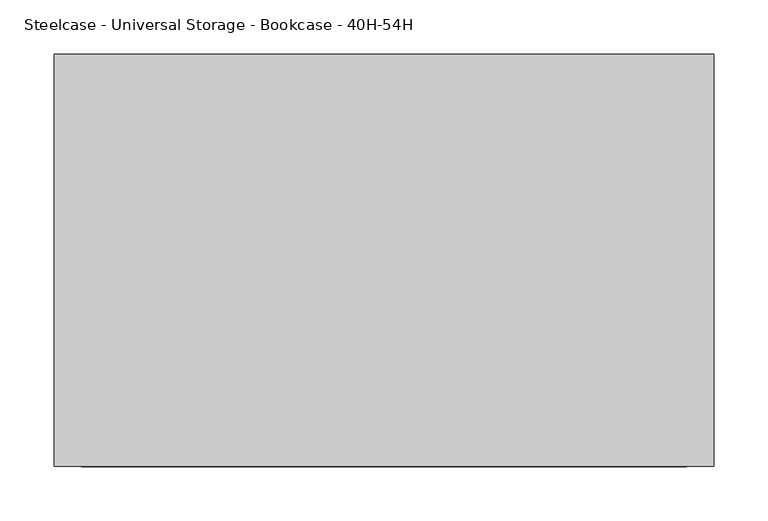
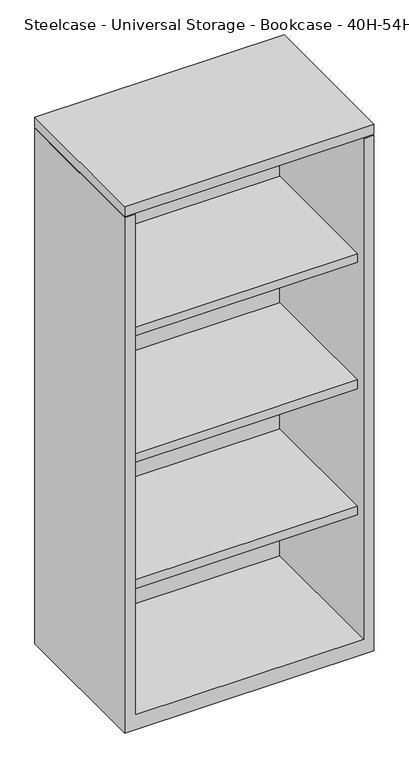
"""IFC4 building model written with IfcOpenShell, lengths in millimetres: furniture geometry, Steelcase - Universal Storage - Bookcase - 40H-54H : 53 1/2H x 24W."""

import ifcopenshell
import ifcopenshell.guid

model = None  # the IFC model being written
_history = None  # IfcOwnerHistory: only IFC2X3 demands one
_inside = {}  # id of a spatial element -> (the spatial element, [elements in it])
_under = {}  # id of a project, library or spatial element -> (it, [spatial elements below it])
_declared = {}  # id of a project -> (the project, [libraries it declares])
_typed = {}  # id of a type object -> (the type object, [elements of that type])
_made_of = {}  # id of a material, layer set ... -> (it, [elements and type objects made of it])


def new_model(schema):
    """Start an empty IFC model of exactly this schema.

    Asked for "IFC4X3", IfcOpenShell would pick the latest addendum, in which some entities
    have other attributes; the version numbers below select the first issue.
    IFC2X3 requires an IfcOwnerHistory on every rooted entity: one is made here for all.
    """
    global model, _history
    if schema == "IFC4X3":
        model = ifcopenshell.file(schema_version=(4, 3, 0, 0))
    else:
        model = ifcopenshell.file(schema=schema)
    _inside.clear()
    _under.clear()
    _declared.clear()
    _typed.clear()
    _made_of.clear()
    _history = None
    if model.schema == "IFC2X3":
        org = make("IfcOrganization", Name="unknown")
        user = make(
            "IfcPersonAndOrganization",
            ThePerson=make("IfcPerson", FamilyName="unknown"),
            TheOrganization=org,
        )
        app = make(
            "IfcApplication",
            ApplicationDeveloper=org,
            Version="unknown",
            ApplicationFullName="unknown",
            ApplicationIdentifier="unknown",
        )
        _history = make(
            "IfcOwnerHistory",
            OwningUser=user,
            OwningApplication=app,
            ChangeAction="ADDED",
            CreationDate=0,
        )
    return model


def make(cls, **values):
    """One entity of the class cls with the attributes given. An attribute that is None is left unset."""
    return model.create_entity(
        cls, **{name: value for name, value in values.items() if value is not None}
    )


def rooted(cls, **values):
    """An entity with a GlobalId (a new one), such as an element, a storey or a relation."""
    return make(cls, GlobalId=ifcopenshell.guid.new(), OwnerHistory=_history, **values)


def si_unit(unit_type, name, prefix=None):
    """IfcSIUnit, for example si_unit("LENGTHUNIT", "METRE", prefix="MILLI")."""
    return make("IfcSIUnit", UnitType=unit_type, Prefix=prefix, Name=name)


def assignment(units):
    """IfcUnitAssignment: the units of a project."""
    return None if units is None else make("IfcUnitAssignment", Units=units)


def point(xyz):
    """IfcCartesianPoint."""
    return None if xyz is None else make("IfcCartesianPoint", Coordinates=xyz)


def direction(xyz):
    """IfcDirection."""
    return None if xyz is None else make("IfcDirection", DirectionRatios=xyz)


def frame(location, z_axis=None, x_axis=None):
    """IfcAxis2Placement3D, a coordinate frame: its origin and axes. An axis left out is left unset."""
    return make(
        "IfcAxis2Placement3D",
        Location=point(location),
        Axis=direction(z_axis),
        RefDirection=direction(x_axis),
    )


def origin():
    """The frame at (0, 0, 0) with its axes left unset."""
    return frame((0.0, 0.0, 0.0))


def place(relative_to, where):
    """IfcLocalPlacement: puts the frame where relative to a parent placement (None: the world)."""
    return make(
        "IfcLocalPlacement", PlacementRelTo=relative_to, RelativePlacement=where
    )


def context(
    kind, dimensions, precision=None, world=None, true_north=None, identifier=None
):
    """IfcGeometricRepresentationContext, for example the 3D "Model" context."""
    return make(
        "IfcGeometricRepresentationContext",
        ContextIdentifier=identifier,
        ContextType=kind,
        CoordinateSpaceDimension=dimensions,
        Precision=precision,
        WorldCoordinateSystem=world,
        TrueNorth=true_north,
    )


def project(units=None, contexts=None):
    """IfcProject with its units and contexts."""
    return rooted(
        "IfcProject",
        Name="project",
        RepresentationContexts=contexts,
        UnitsInContext=assignment(units),
    )


def spatial(cls, under=None, at=None, **own):
    """A site, building, storey or space (cls), placed at a placement, below another one or the project."""
    s = rooted(cls, ObjectPlacement=at, **own)
    if under is not None:
        _under.setdefault(under.id(), (under, []))[1].append(s)
    return s


def polyline(points):
    """IfcPolyline through the points."""
    return make("IfcPolyline", Points=[point(p) for p in points])


def outline(outer, holes=None, kind="AREA"):
    """IfcArbitraryClosedProfileDef: a profile drawn as a closed curve; with holes, ...WithVoids."""
    if holes is None:
        return make("IfcArbitraryClosedProfileDef", ProfileType=kind, OuterCurve=outer)
    return make(
        "IfcArbitraryProfileDefWithVoids",
        ProfileType=kind,
        OuterCurve=outer,
        InnerCurves=holes,
    )


def extrude(swept, where, along, depth):
    """IfcExtrudedAreaSolid: the profile swept, set in the frame where, extruded along a direction by depth."""
    return make(
        "IfcExtrudedAreaSolid",
        SweptArea=swept,
        Position=where,
        ExtrudedDirection=direction(along),
        Depth=depth,
    )


def faces_of(points, faces, orient=None, outer=None):
    """IfcFace entities. A face is a list of loops; a loop is a list of indices into points, from 0.

    orient and outer hold one flag for each loop. By default every Orientation is true, the
    first loop of a face is its IfcFaceOuterBound and the others are IfcFaceBound.
    """
    made = []
    for i, loops in enumerate(faces):
        bounds = []
        for j, loop in enumerate(loops):
            is_outer = j == 0 if outer is None else outer[i][j]
            bounds.append(
                make(
                    "IfcFaceOuterBound" if is_outer else "IfcFaceBound",
                    Bound=make("IfcPolyLoop", Polygon=[points[k] for k in loop]),
                    Orientation=True if orient is None else orient[i][j],
                )
            )
        made.append(make("IfcFace", Bounds=bounds))
    return made


def faceted_brep(points, faces, orient=None, outer=None, voids=None):
    """IfcFacetedBrep: a solid bounded by flat faces; with voids (closed shells), ...WithVoids."""
    shared = [point(p) for p in points]
    hull = make("IfcClosedShell", CfsFaces=faces_of(shared, faces, orient, outer))
    if voids is None:
        return make("IfcFacetedBrep", Outer=hull)
    return make(
        "IfcFacetedBrepWithVoids",
        Outer=hull,
        Voids=[
            make(cls, CfsFaces=faces_of(shared, fs, o, b)) for cls, fs, o, b in voids
        ],
    )


def shape(context_of_items, identifier, shape_type, items):
    """IfcShapeRepresentation: the items that make up one representation, for example the "Body"."""
    return make(
        "IfcShapeRepresentation",
        ContextOfItems=context_of_items,
        RepresentationIdentifier=identifier,
        RepresentationType=shape_type,
        Items=items,
    )


def source(mapping_origin, context_of_items, identifier, shape_type, items):
    """IfcRepresentationMap: a shape defined once, which mapped items show again and again."""
    return make(
        "IfcRepresentationMap",
        MappingOrigin=mapping_origin,
        MappedRepresentation=shape(context_of_items, identifier, shape_type, items),
    )


def transform(
    local_origin,
    x_axis=None,
    y_axis=None,
    z_axis=None,
    scale=None,
    scale2=None,
    scale3=None,
    uniform=True,
):
    """IfcCartesianTransformationOperator3D, or its non-uniform kind. x_axis, y_axis, z_axis: its Axis1, 2, 3."""
    if uniform:
        return make(
            "IfcCartesianTransformationOperator3D",
            Axis1=direction(x_axis),
            Axis2=direction(y_axis),
            LocalOrigin=point(local_origin),
            Scale=scale,
            Axis3=direction(z_axis),
        )
    return make(
        "IfcCartesianTransformationOperator3DnonUniform",
        Axis1=direction(x_axis),
        Axis2=direction(y_axis),
        LocalOrigin=point(local_origin),
        Scale=scale,
        Axis3=direction(z_axis),
        Scale2=scale2,
        Scale3=scale3,
    )


def mapped(mapping_source, mapping_target):
    """IfcMappedItem: shows the shape of a source again, moved by a transform."""
    return make(
        "IfcMappedItem", MappingSource=mapping_source, MappingTarget=mapping_target
    )


def made_of(thing, what):
    """Note that an element or type object is made of a material, layer set ...; save() writes the relation."""
    if what is not None:
        _made_of.setdefault(what.id(), (what, []))[1].append(thing)
    return thing


def element(
    cls,
    number,
    at=None,
    inside=None,
    cuts=None,
    type_object=None,
    material=None,
    context=None,
    identifier="Body",
    shape_type=None,
    held_by="IfcProductDefinitionShape",
    body=None,
    shapes=None,
    **own,
):
    """One element of the class cls, such as IfcWall. Its Tag is "e" and its number.

    at: its placement. inside: the storey or other place that contains it. cuts: it is an
    opening in that element (IfcRelVoidsElement). A single representation is given by context,
    identifier, shape_type and body (its items); several are given by shapes. held_by: the class
    of the entity that holds the representations. save() writes the other relations.
    """
    e = rooted(cls, Tag="e%d" % number, ObjectPlacement=at, **own)
    if body is not None:
        shapes = [shape(context, identifier, shape_type, body)]
    if shapes is not None:
        e.Representation = make(held_by, Representations=shapes)
    if inside is not None:
        _inside.setdefault(inside.id(), (inside, []))[1].append(e)
    if cuts is not None:
        rooted(
            "IfcRelVoidsElement", RelatingBuildingElement=cuts, RelatedOpeningElement=e
        )
    if type_object is not None:
        _typed.setdefault(type_object.id(), (type_object, []))[1].append(e)
    return made_of(e, material)


def aggregate(whole, parts):
    """IfcRelAggregates: a whole, such as a stair, and the parts it consists of."""
    return rooted("IfcRelAggregates", RelatingObject=whole, RelatedObjects=parts)


def save(model, path):
    """Write the relations noted so far, then the file.

    IfcRelAggregates (storeys below a building ...), IfcRelContainedInSpatialStructure (elements
    in a storey), IfcRelDefinesByType, IfcRelAssociatesMaterial and IfcRelDeclares: one each for
    every whole, place, type object, material and project.
    """
    for whole, parts in _under.values():
        aggregate(whole, parts)
    for where, things in _inside.values():
        rooted(
            "IfcRelContainedInSpatialStructure",
            RelatedElements=things,
            RelatingStructure=where,
        )
    for kind, things in _typed.values():
        rooted("IfcRelDefinesByType", RelatedObjects=things, RelatingType=kind)
    for what, things in _made_of.values():
        rooted("IfcRelAssociatesMaterial", RelatedObjects=things, RelatingMaterial=what)
    for by, libraries in _declared.values():
        rooted("IfcRelDeclares", RelatingContext=by, RelatedDefinitions=libraries)
    model.write(path)


def steelcase_universal_storage_bookcase_40h_54h_86fce03d(model_context):
    return source(origin(), model_context, "Body", "SolidModel", [
        extrude(outline(polyline([(609.6, -98.552), (609.6, -479.552), (0.0, -479.552), (0.0, -98.552), (609.6, -98.552)])), frame((0.0, 0.0, 1336.5479031), z_axis=(0.0, 0.0, 1.0), x_axis=(1.0, 0.0, 0.0)), (0.0, 0.0, 1.0), 25.4000484),
        extrude(outline(polyline([(584.2000242, -123.9520008), (584.2000242, -454.0250121), (25.4000008, -454.0250121), (25.4000008, -123.9520008), (584.2000242, -123.9520008)])), frame((0.0, 0.0, 344.424), z_axis=(0.0, 0.0, 1.0), x_axis=(1.0, 0.0, 0.0)), (0.0, 0.0, 1.0), 22.2249516),
        extrude(outline(polyline([(584.2000242, -123.9520008), (584.2000242, -454.0250121), (25.4000008, -454.0250121), (25.4000008, -123.9520008), (584.2000242, -123.9520008)])), frame((0.0, 0.0, 671.4489516), z_axis=(0.0, 0.0, 1.0), x_axis=(1.0, 0.0, 0.0)), (0.0, 0.0, 1.0), 22.2249516),
        extrude(outline(polyline([(584.2000242, -123.9520008), (584.2000242, -454.0250121), (25.4000008, -454.0250121), (25.4000008, -123.9520008), (584.2000242, -123.9520008)])), frame((0.0, 0.0, 998.4739031), z_axis=(0.0, 0.0, 1.0), x_axis=(1.0, 0.0, 0.0)), (0.0, 0.0, 1.0), 22.2249516),
        faceted_brep([(25.4000008, -479.552, 38.1), (584.2000242, -479.552, 38.1), (584.2000242, -123.9520008, 38.1), (25.4000008, -123.9520008, 38.1), (609.6, -98.552, 0.0), (609.6, -479.552, 0.0), (0.0, -479.552, 0.0), (0.0, -98.552, 0.0), (0.0, -98.552, 1333.5), (609.6, -98.552, 1333.5), (0.0, -479.552, 1333.5), (609.6, -479.552, 1333.5), (584.2000242, -479.552, 1333.5), (25.4000008, -479.552, 1333.5), (584.2000242, -123.9520008, 1333.5), (25.4000008, -123.9520008, 1333.5)], [[[0, 1, 2, 3]], [[4, 5, 6, 7]], [[4, 7, 8, 9]], [[8, 7, 6, 10]], [[10, 6, 5, 11, 12, 1, 0, 13]], [[11, 5, 4, 9]], [[14, 12, 11, 9, 8, 10, 13, 15]], [[12, 14, 2, 1]], [[15, 13, 0, 3]], [[14, 15, 3, 2]]]),
    ])


if __name__ == "__main__":
    model = new_model("IFC4")
    model_context = context("Model", 3, world=origin())
    ifc_project = project(units=[si_unit("LENGTHUNIT", "METRE", prefix="MILLI")], contexts=[model_context])
    site = spatial("IfcSite", under=ifc_project)
    building = spatial("IfcBuilding", under=site)
    placement = place(None, origin())
    steelcase_universal_storage_bookcase_40h_54h_shape = steelcase_universal_storage_bookcase_40h_54h_86fce03d(model_context)
    element("IfcFurniture", 1, ObjectType="Steelcase - Universal Storage - Bookcase - 40H-54H : 53 1/2H x 24W", at=placement, inside=building, context=model_context, shape_type="MappedRepresentation", body=[
        mapped(steelcase_universal_storage_bookcase_40h_54h_shape, transform((0.0, 0.0, 0.0), x_axis=(1.0, 0.0, 0.0), y_axis=(0.0, 1.0, 0.0), z_axis=(0.0, 0.0, 1.0))),
    ])
    save(model, "model.ifc")
